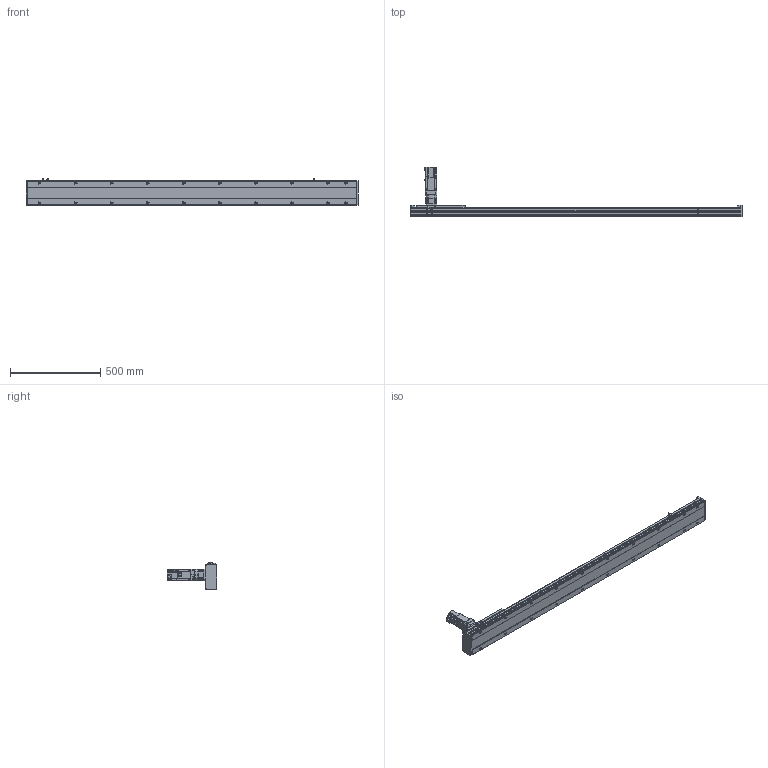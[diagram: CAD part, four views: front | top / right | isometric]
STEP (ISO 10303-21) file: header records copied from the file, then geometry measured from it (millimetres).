
FILE_DESCRIPTION(/* description */ ('STEP AP203'),/* implementation_level */ '2;1');
FILE_NAME(/* name */ 'SHS14A-L10-S1500-BC-T40-C1-N(0)',/* time_stamp */ '2023-03-27T08:49:04+02:00',/* author */ ('License CC BY-ND 4.0'),/* organization */ ('CADENAS'),/* preprocessor_version */ 'ST-DEVELOPER v19.3',/* originating_system */ 'PARTsolutions',/* authorisation */ ' ');
FILE_SCHEMA (('CONFIG_CONTROL_DESIGN'));
Length unit declared in the file: millimetre
Products named in the file (7): SHS14A-L10-S1500-BC-T40-C1-N(0); PSC140-sensor; T40-p1; SHS14AT_body3; SHS14A-1500_slider; SHS14A_body2; SHS14A-S1500-BC-T40-C1(0)_body
Assembly tree (13 placements, depth 2):
  SHS14A-L10-S1500-BC-T40-C1-N(0)
    PSC140-sensor  x3
    T40-p1
    SHS14AT_body3
    SHS14A-1500_slider
    SHS14A_body2  x6
    SHS14A-S1500-BC-T40-C1(0)_body
Bounding box: 1840 x 272.7 x 150.9 mm (x, y, z)
Volume: 8148379.4 mm3; surface area: 1288070.9 mm2
Topology: 13 solids, 13 shells, 2060 faces, 5263 edges, 3442 vertices
Faces by surface type: plane 1455, cylinder 523, cone 72, torus 10
Full cylindrical faces by diameter (mm): 2.8 x3, 4.134 x24, 4.2 x7, 4.4 x24, 4.5 x24, 4.6 x3, 4.8 x24, 4.917 x28, 5 x8, 5.5 x11, 5.94 x6, 6 x2, 6.6 x20, 8 x24, 8.49 x4, 8.5 x4, 9 x4, 10.5 x20, 13.964 x1, 14 x1, 14.182 x1, 16 x1, 18.974 x1, 19.274 x1, 19.774 x1, 19.8 x1, 34.442 x1, 42 x1, 50 x5
Entity records: 32470 total; most frequent: CARTESIAN_POINT 5742, DIRECTION 5491, ORIENTED_EDGE 5082, EDGE_CURVE 2541, AXIS2_PLACEMENT_3D 1889, VERTEX_POINT 1804, LINE 1713, VECTOR 1713
